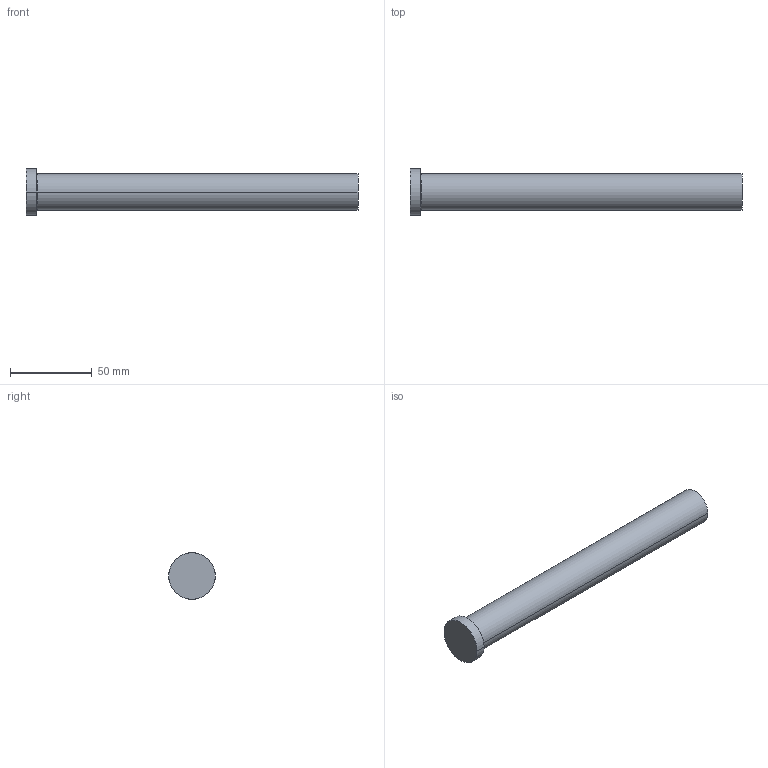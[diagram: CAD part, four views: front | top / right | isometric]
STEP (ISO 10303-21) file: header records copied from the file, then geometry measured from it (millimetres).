
FILE_DESCRIPTION (( 'STEP AP214' ), '1' );
FILE_NAME ('P45-8.STEP', '2020-03-12T12:21:55', ( '' ), ( '' ), 'SwSTEP 2.0', 'SolidWorks 2018', '' );
FILE_SCHEMA (( 'AUTOMOTIVE_DESIGN' ));
Length unit declared in the file: inch
Products named in the file (1): P45-8
Bounding box: 203.2 x 28.57 x 28.57 mm (x, y, z)
Volume: 80360.5 mm3; surface area: 15556 mm2
Topology: 1 solids, 1 shells, 13 faces, 24 edges, 14 vertices
Faces by surface type: cone 4, cylinder 4, plane 3, torus 2
Entity records: 366 total; most frequent: DIRECTION 68, CARTESIAN_POINT 52, ORIENTED_EDGE 48, AXIS2_PLACEMENT_3D 30, EDGE_CURVE 24, CIRCLE 16, VERTEX_POINT 14, EDGE_LOOP 14
